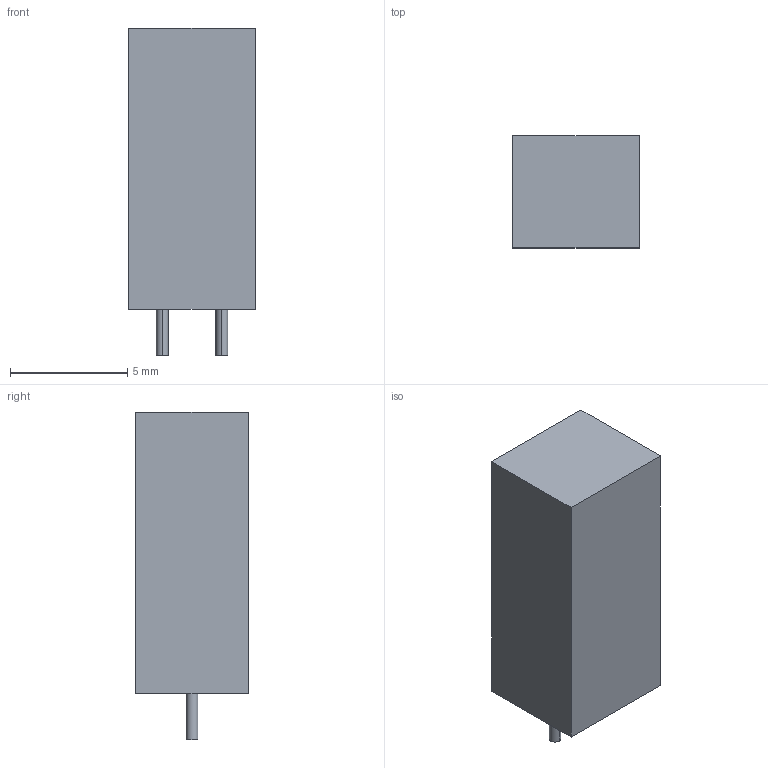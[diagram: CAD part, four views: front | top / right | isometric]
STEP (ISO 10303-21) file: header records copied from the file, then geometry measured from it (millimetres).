
FILE_DESCRIPTION (( 'STEP AP214' ), '1' );
FILE_NAME ( 'LEDRR254W50L540T480H1200.STEP', '2021-10-06T06:48:59', ( '' ), ( '' ), '', '©2017 PCB Libraries, Inc.', '' );
FILE_SCHEMA (( 'AUTOMOTIVE_DESIGN' ));
Length unit declared in the file: millimetre
Products named in the file (1): LEDRR254W50L540T480H1200
Bounding box: 5.4 x 4.8 x 14 mm (x, y, z)
Volume: 311.8 mm3; surface area: 303.7 mm2
Topology: 3 solids, 3 shells, 14 faces, 24 edges, 16 vertices
Faces by surface type: plane 10, cylinder 4
Entity records: 426 total; most frequent: DIRECTION 62, CARTESIAN_POINT 55, ORIENTED_EDGE 48, EDGE_CURVE 24, AXIS2_PLACEMENT_3D 23, STYLED_ITEM 18, PRESENTATION_LAYER_ASSIGNMENT 18, MECHANICAL_DESIGN_GEOMETRIC_PRESENTATION_REPRESENTATION 18
